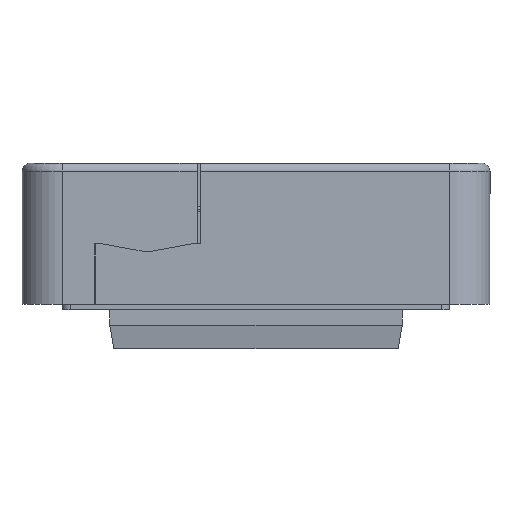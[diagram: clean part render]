
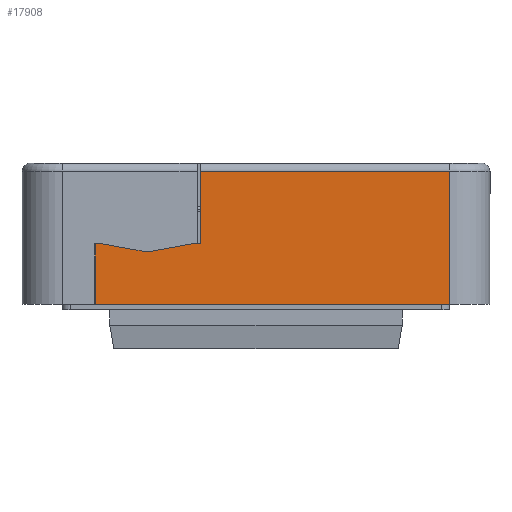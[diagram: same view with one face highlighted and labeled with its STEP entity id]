
A CAD part, left-side view. The second image highlights one B-rep face of the part: STEP entity #17908.
In plain terms, the highlighted planar face has unit normal (-1, 0, 0) as drawn and (1, 0, 0) by its records, which use the part's own axes.
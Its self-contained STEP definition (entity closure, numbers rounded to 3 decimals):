
#2194=FACE_OUTER_BOUND('',#3235,.T.);
#3235=EDGE_LOOP('',(#16088,#16089,#16090,#16091,#16092,#16093,#16094,#16095,
#16096));
#4993=LINE('',#30979,#6786);
#5003=LINE('',#31016,#6796);
#5026=LINE('',#31068,#6819);
#5030=LINE('',#31074,#6823);
#5032=LINE('',#31078,#6825);
#5033=LINE('',#31080,#6826);
#5034=LINE('',#31081,#6827);
#5035=LINE('',#31083,#6828);
#5036=LINE('',#31084,#6829);
#6786=VECTOR('',#23519,10.);
#6796=VECTOR('',#23551,10.);
#6819=VECTOR('',#23592,10.);
#6823=VECTOR('',#23598,10.);
#6825=VECTOR('',#23602,10.);
#6826=VECTOR('',#23603,10.);
#6827=VECTOR('',#23604,10.);
#6828=VECTOR('',#23605,10.);
#6829=VECTOR('',#23606,10.);
#8549=VERTEX_POINT('',#30976);
#8550=VERTEX_POINT('',#30978);
#8566=VERTEX_POINT('',#31015);
#8585=VERTEX_POINT('',#31066);
#8586=VERTEX_POINT('',#31067);
#8587=VERTEX_POINT('',#31073);
#8588=VERTEX_POINT('',#31077);
#8589=VERTEX_POINT('',#31079);
#8590=VERTEX_POINT('',#31082);
#11075=EDGE_CURVE('',#8550,#8549,#4993,.T.);
#11094=EDGE_CURVE('',#8550,#8566,#5003,.T.);
#11120=EDGE_CURVE('',#8585,#8586,#5026,.T.);
#11124=EDGE_CURVE('',#8587,#8585,#5030,.T.);
#11126=EDGE_CURVE('',#8549,#8588,#5032,.T.);
#11127=EDGE_CURVE('',#8588,#8589,#5033,.T.);
#11128=EDGE_CURVE('',#8589,#8587,#5034,.T.);
#11129=EDGE_CURVE('',#8586,#8590,#5035,.T.);
#11130=EDGE_CURVE('',#8566,#8590,#5036,.T.);
#16088=ORIENTED_EDGE('',*,*,#11126,.T.);
#16089=ORIENTED_EDGE('',*,*,#11127,.T.);
#16090=ORIENTED_EDGE('',*,*,#11128,.T.);
#16091=ORIENTED_EDGE('',*,*,#11124,.T.);
#16092=ORIENTED_EDGE('',*,*,#11120,.T.);
#16093=ORIENTED_EDGE('',*,*,#11129,.T.);
#16094=ORIENTED_EDGE('',*,*,#11130,.F.);
#16095=ORIENTED_EDGE('',*,*,#11094,.F.);
#16096=ORIENTED_EDGE('',*,*,#11075,.T.);
#16969=PLANE('',#19301);
#17908=ADVANCED_FACE('',(#2194),#16969,.T.);
#19301=AXIS2_PLACEMENT_3D('',#31076,#23600,#23601);
#23519=DIRECTION('',(0.,0.,1.));
#23551=DIRECTION('',(0.,-1.,0.));
#23592=DIRECTION('',(0.,0.,1.));
#23598=DIRECTION('',(0.,1.,0.));
#23600=DIRECTION('center_axis',(1.,0.,0.));
#23601=DIRECTION('ref_axis',(0.,0.,-1.));
#23602=DIRECTION('',(0.,1.,0.));
#23603=DIRECTION('',(0.,0.984,0.179));
#23604=DIRECTION('',(0.,0.984,-0.179));
#23605=DIRECTION('',(0.,-1.,0.));
#23606=DIRECTION('',(0.,0.,1.));
#30976=CARTESIAN_POINT('',(60.5,6.9,-8.));
#30978=CARTESIAN_POINT('',(60.5,6.9,-17.));
#30979=CARTESIAN_POINT('',(60.5,6.9,-6.625));
#31015=CARTESIAN_POINT('',(60.5,-24.,-17.));
#31016=CARTESIAN_POINT('',(60.5,-22.834,-17.));
#31066=CARTESIAN_POINT('',(60.5,19.9,-8.));
#31067=CARTESIAN_POINT('',(60.5,19.9,-0.5));
#31068=CARTESIAN_POINT('',(60.5,19.9,-2.554));
#31073=CARTESIAN_POINT('',(60.5,19.,-8.));
#31074=CARTESIAN_POINT('',(60.5,-4.5,-8.));
#31076=CARTESIAN_POINT('Origin',(60.5,-29.,0.));
#31077=CARTESIAN_POINT('',(60.5,8.,-8.));
#31078=CARTESIAN_POINT('',(60.5,-4.5,-8.));
#31079=CARTESIAN_POINT('',(60.5,13.5,-7.));
#31080=CARTESIAN_POINT('',(60.5,-6.454,-10.628));
#31081=CARTESIAN_POINT('',(60.5,-4.936,-3.648));
#31082=CARTESIAN_POINT('',(60.5,-24.,-0.5));
#31083=CARTESIAN_POINT('',(60.5,-24.359,-0.5));
#31084=CARTESIAN_POINT('',(60.5,-24.,0.));
